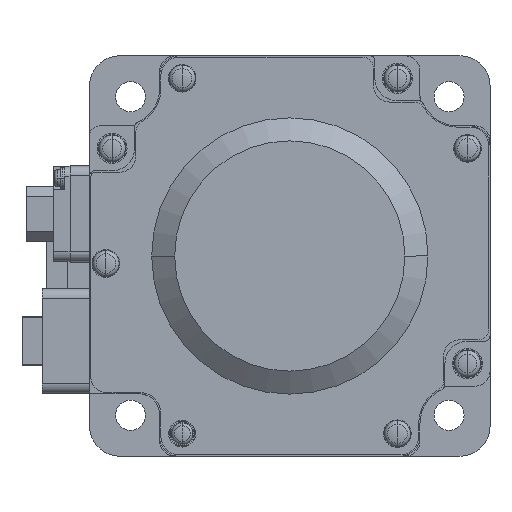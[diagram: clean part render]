
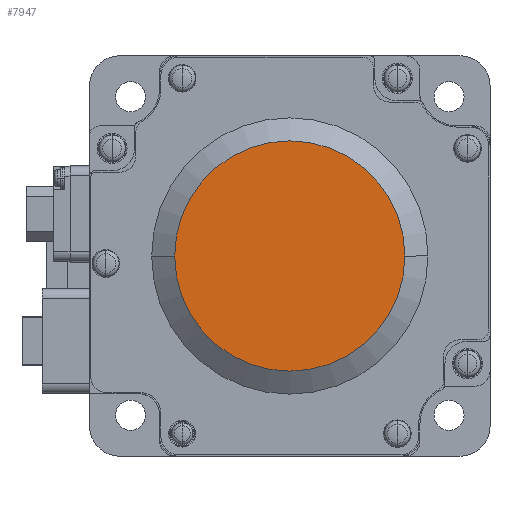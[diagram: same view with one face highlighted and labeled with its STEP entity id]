
A CAD part, left-side view. The second image highlights one B-rep face of the part: STEP entity #7947.
In plain terms, the highlighted planar face has unit normal (-1, 0, 0).
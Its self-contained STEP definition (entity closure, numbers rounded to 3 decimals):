
#6585 = VERTEX_POINT( '', #15561 );
#7669 = EDGE_CURVE( '', #9609, #6585, #16773, .T. );
#7947 = ADVANCED_FACE( '', ( #17069 ), #17070, .T. );
#9609 = VERTEX_POINT( '', #18916 );
#13017 = EDGE_CURVE( '', #6585, #9609, #22676, .T. );
#15561 = CARTESIAN_POINT( '', ( -151.2, 23., 0. ) );
#16773 = CIRCLE( '', #27818, 23. );
#17069 = FACE_OUTER_BOUND( '', #28278, .T. );
#17070 = PLANE( '', #28279 );
#18916 = CARTESIAN_POINT( '', ( -151.2, -23., 0. ) );
#22676 = CIRCLE( '', #35867, 23. );
#27818 = AXIS2_PLACEMENT_3D( '', #40348, #40349, #40350 );
#28278 = EDGE_LOOP( '', ( #40631, #40632 ) );
#28279 = AXIS2_PLACEMENT_3D( '', #40633, #40634, #40635 );
#35867 = AXIS2_PLACEMENT_3D( '', #47107, #47108, #47109 );
#40348 = CARTESIAN_POINT( '', ( -151.2, 0., 0. ) );
#40349 = DIRECTION( '', ( -1., 0., 0. ) );
#40350 = DIRECTION( '', ( 0., 1., 0. ) );
#40631 = ORIENTED_EDGE( '', *, *, #13017, .T. );
#40632 = ORIENTED_EDGE( '', *, *, #7669, .T. );
#40633 = CARTESIAN_POINT( '', ( -151.2, 11.5, 0. ) );
#40634 = DIRECTION( '', ( -1., 0., 0. ) );
#40635 = DIRECTION( '', ( 0., 1., 0. ) );
#47107 = CARTESIAN_POINT( '', ( -151.2, 0., 0. ) );
#47108 = DIRECTION( '', ( -1., 0., 0. ) );
#47109 = DIRECTION( '', ( 0., 1., 0. ) );
